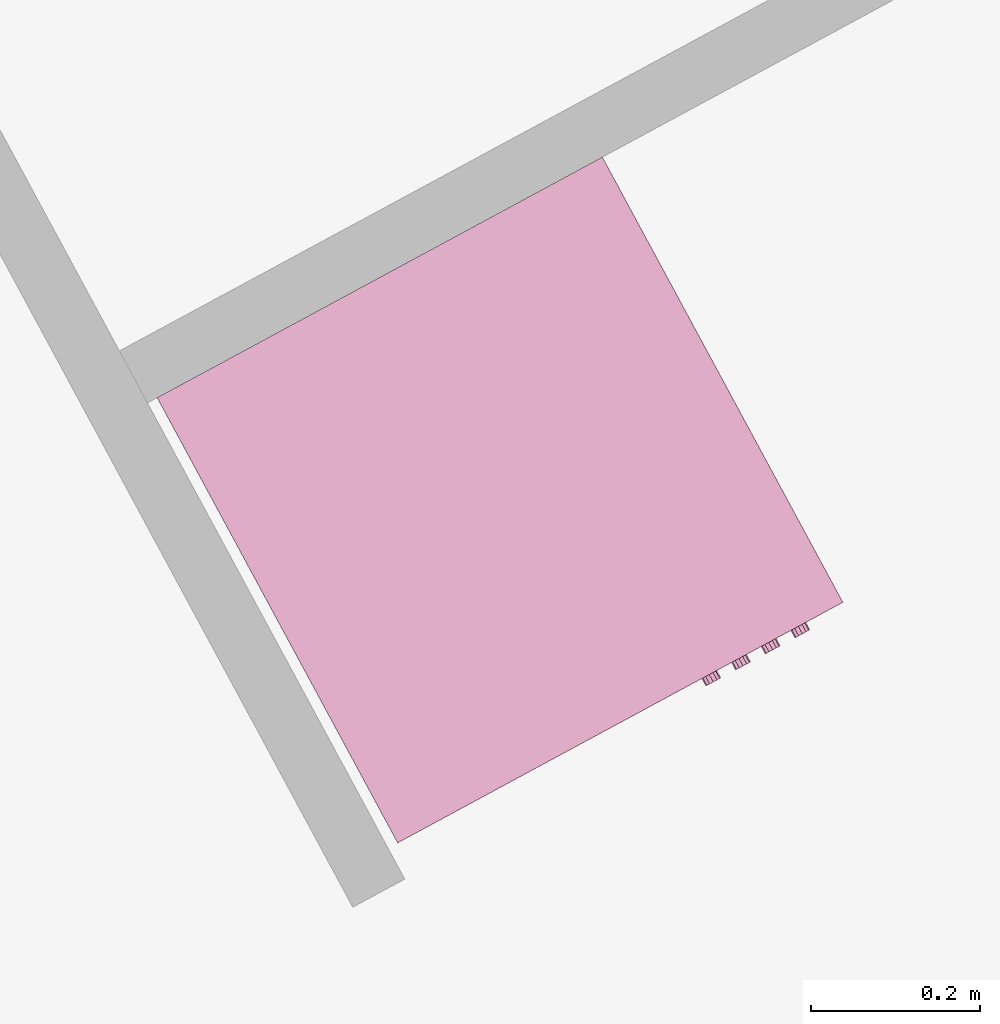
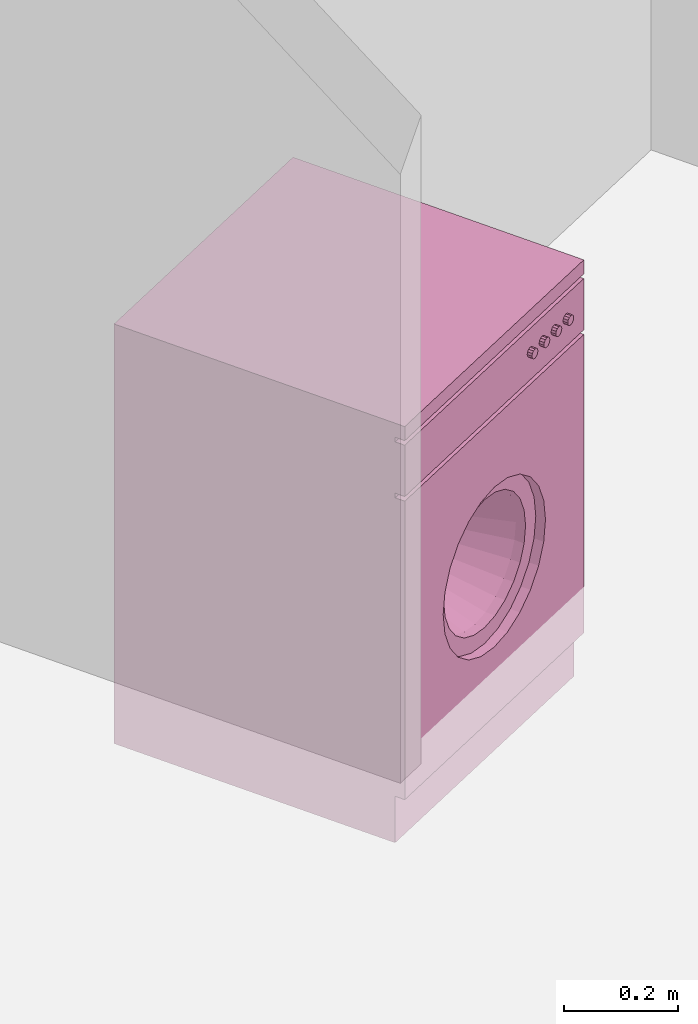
# One storey, part 105 of 121: 1 furnishing.
"""IFC2X3 building model written with IfcOpenShell, lengths in metres."""

from ifc_helpers import new_model, entity, si_unit, converted_unit, derived_unit, money_unit, direction, frame, origin_with_axes, place, context, subcontext, project, spatial, open_shell, faceted_brep, surface_model, source, transform, mapped, type_object, element, save


model = new_model("IFC2X3")

# Units and contexts
model_context = context("Model", 3, precision=1e-05, world=origin_with_axes(), true_north=direction((0.0, 1.0)))
body_context = subcontext(model_context, "Body", "Model", "MODEL_VIEW")
ifc_project = project(units=[si_unit("LENGTHUNIT", "METRE"), si_unit("AREAUNIT", "SQUARE_METRE"), si_unit("VOLUMEUNIT", "CUBIC_METRE"), converted_unit("PLANEANGLEUNIT", "DEGREE", entity("IfcPlaneAngleMeasure", 0.0174532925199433), si_unit("PLANEANGLEUNIT", "RADIAN"), dimensions=[0, 0, 0, 0, 0, 0, 0]), money_unit("CHF"), converted_unit("TIMEUNIT", "Year", entity("IfcTimeMeasure", 31557600.0), si_unit("TIMEUNIT", "SECOND"), dimensions=[0, 0, 1, 0, 0, 0, 0]), si_unit("MASSUNIT", "GRAM", prefix="KILO"), si_unit("THERMODYNAMICTEMPERATUREUNIT", "DEGREE_CELSIUS"), si_unit("LUMINOUSINTENSITYUNIT", "LUMEN"), si_unit("ENERGYUNIT", "JOULE", prefix="MEGA"), derived_unit("THERMALCONDUCTANCEUNIT", [(si_unit("POWERUNIT", "WATT"), 1), (si_unit("LENGTHUNIT", "METRE"), -1), (si_unit("THERMODYNAMICTEMPERATUREUNIT", "KELVIN"), -1)]), derived_unit("SPECIFICHEATCAPACITYUNIT", [(si_unit("ENERGYUNIT", "JOULE"), 1), (si_unit("MASSUNIT", "GRAM", prefix="KILO"), -1), (si_unit("THERMODYNAMICTEMPERATUREUNIT", "KELVIN"), -1)]), derived_unit("MASSDENSITYUNIT", [(si_unit("MASSUNIT", "GRAM", prefix="KILO"), 1), (si_unit("VOLUMEUNIT", "CUBIC_METRE"), -1)])], contexts=[model_context])

# Site, building, storey
site_placement = place(None, origin_with_axes())
site = spatial("IfcSite", under=ifc_project, at=site_placement, Name="Site", CompositionType="ELEMENT")
building_placement = place(site_placement, origin_with_axes())
building = spatial("IfcBuilding", under=site, at=building_placement, Name="Bâtiment", CompositionType="ELEMENT")
storey_placement = place(building_placement, frame((0.0, 0.0, 2.75), z_axis=(0.0, 0.0, 1.0), x_axis=(1.0, 0.0, 0.0)))
storey = spatial("IfcBuildingStorey", under=building, at=storey_placement, Name="Etage 1", CompositionType="ELEMENT", Elevation=2.75)

# Furnishing
furnishing_element_type = type_object("IfcFurnishingElementType", Name="Machine à laver")
shared_shape = source(origin_with_axes(), body_context, "Body", "SurfaceModel", [
    faceted_brep([(0.0, 0.02, 0.1), (0.0, 0.0, 0.1), (-0.6, 0.0, 0.1), (-0.6, 0.02, 0.1), (0.0, 0.02000000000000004, 0.74), (0.0, 0.0, 0.74), (-0.6, 0.0, 0.74), (-0.4714285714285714, 0.0, 0.42), (-0.4655872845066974, 0.0, 0.4643689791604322), (-0.448461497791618, 0.0, 0.5057142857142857), (-0.4212183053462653, 0.0, 0.5412183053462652), (-0.3857142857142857, 0.0, 0.568461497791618), (-0.3443689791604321, 0.0, 0.5855872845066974), (-0.3, 0.0, 0.5914285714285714), (-0.2556310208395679, 0.0, 0.5855872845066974), (-0.2142857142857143, 0.0, 0.5684614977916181), (-0.1787816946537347, 0.0, 0.5412183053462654), (-0.1515385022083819, 0.0, 0.5057142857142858), (-0.1344127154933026, 0.0, 0.4643689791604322), (-0.1285714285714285, 0.0, 0.42), (-0.1344127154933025, 0.0, 0.3756310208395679), (-0.1515385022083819, 0.0, 0.3342857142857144), (-0.1787816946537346, 0.0, 0.2987816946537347), (-0.2142857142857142, 0.0, 0.2715385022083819), (-0.2556310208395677, 0.0, 0.2544127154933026), (-0.2999999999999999, 0.0, 0.2485714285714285), (-0.344368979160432, 0.0, 0.2544127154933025), (-0.3857142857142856, 0.0, 0.2715385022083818), (-0.4212183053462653, 0.0, 0.2987816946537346), (-0.448461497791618, 0.0, 0.3342857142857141), (-0.4655872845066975, 0.0, 0.3756310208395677), (-0.6, 0.02000000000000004, 0.74), (-0.4714285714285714, 0.02000000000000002, 0.42), (-0.4655872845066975, 0.02000000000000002, 0.3756310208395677), (-0.448461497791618, 0.02000000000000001, 0.3342857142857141), (-0.4212183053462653, 0.02000000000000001, 0.2987816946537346), (-0.3857142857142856, 0.02000000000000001, 0.2715385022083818), (-0.344368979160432, 0.02000000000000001, 0.2544127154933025), (-0.2999999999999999, 0.02000000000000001, 0.2485714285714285), (-0.2556310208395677, 0.02000000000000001, 0.2544127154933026), (-0.2142857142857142, 0.02000000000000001, 0.2715385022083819), (-0.1787816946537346, 0.02000000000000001, 0.2987816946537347), (-0.1515385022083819, 0.02000000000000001, 0.3342857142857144), (-0.1344127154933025, 0.02000000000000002, 0.3756310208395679), (-0.1285714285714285, 0.02000000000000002, 0.42), (-0.1344127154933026, 0.02000000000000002, 0.4643689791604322), (-0.1515385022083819, 0.02000000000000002, 0.5057142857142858), (-0.1787816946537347, 0.02000000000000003, 0.5412183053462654), (-0.2142857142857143, 0.02000000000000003, 0.5684614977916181), (-0.2556310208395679, 0.02000000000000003, 0.5855872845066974), (-0.3, 0.02000000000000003, 0.5914285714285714), (-0.3443689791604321, 0.02000000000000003, 0.5855872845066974), (-0.3857142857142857, 0.02000000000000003, 0.568461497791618), (-0.4212183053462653, 0.02000000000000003, 0.5412183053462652), (-0.448461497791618, 0.02000000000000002, 0.5057142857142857), (-0.4655872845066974, 0.02000000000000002, 0.4643689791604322)], [[[0, 1, 2, 3]], [[4, 5, 1, 0]], [[1, 5, 6, 2], [7, 8, 9, 10, 11, 12, 13, 14, 15, 16, 17, 18, 19, 20, 21, 22, 23, 24, 25, 26, 27, 28, 29, 30]], [[3, 2, 6, 31]], [[0, 3, 31, 4], [32, 33, 34, 35, 36, 37, 38, 39, 40, 41, 42, 43, 44, 45, 46, 47, 48, 49, 50, 51, 52, 53, 54, 55]], [[31, 6, 5, 4]], [[55, 8, 7, 32]], [[54, 9, 8, 55]], [[53, 10, 9, 54]], [[52, 11, 10, 53]], [[51, 12, 11, 52]], [[50, 13, 12, 51]], [[49, 14, 13, 50]], [[48, 15, 14, 49]], [[47, 16, 15, 48]], [[46, 17, 16, 47]], [[45, 18, 17, 46]], [[44, 19, 18, 45]], [[43, 20, 19, 44]], [[42, 21, 20, 43]], [[41, 22, 21, 42]], [[40, 23, 22, 41]], [[39, 24, 23, 40]], [[38, 25, 24, 39]], [[37, 26, 25, 38]], [[36, 27, 26, 37]], [[35, 28, 27, 36]], [[34, 29, 28, 35]], [[33, 30, 29, 34]], [[32, 7, 30, 33]]]),
    faceted_brep([(-0.4714285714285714, 0.04000000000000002, 0.42), (-0.4714285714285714, 0.02000000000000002, 0.42), (-0.4655872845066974, 0.02000000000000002, 0.4643689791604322), (-0.4655872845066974, 0.04000000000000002, 0.4643689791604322), (-0.4655872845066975, 0.04000000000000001, 0.3756310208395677), (-0.4655872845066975, 0.02000000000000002, 0.3756310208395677), (-0.448461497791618, 0.02000000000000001, 0.3342857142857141), (-0.4212183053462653, 0.02000000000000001, 0.2987816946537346), (-0.3857142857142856, 0.02000000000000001, 0.2715385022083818), (-0.344368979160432, 0.02000000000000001, 0.2544127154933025), (-0.2999999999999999, 0.02000000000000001, 0.2485714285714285), (-0.2556310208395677, 0.02000000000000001, 0.2544127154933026), (-0.2142857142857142, 0.02000000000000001, 0.2715385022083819), (-0.1787816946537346, 0.02000000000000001, 0.2987816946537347), (-0.1515385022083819, 0.02000000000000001, 0.3342857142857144), (-0.1344127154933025, 0.02000000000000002, 0.3756310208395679), (-0.1285714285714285, 0.02000000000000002, 0.42), (-0.1344127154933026, 0.02000000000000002, 0.4643689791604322), (-0.1515385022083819, 0.02000000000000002, 0.5057142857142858), (-0.1787816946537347, 0.02000000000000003, 0.5412183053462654), (-0.2142857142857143, 0.02000000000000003, 0.5684614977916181), (-0.2556310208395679, 0.02000000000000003, 0.5855872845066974), (-0.3, 0.02000000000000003, 0.5914285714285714), (-0.3443689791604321, 0.02000000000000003, 0.5855872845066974), (-0.3857142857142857, 0.02000000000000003, 0.568461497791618), (-0.4212183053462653, 0.02000000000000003, 0.5412183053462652), (-0.448461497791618, 0.02000000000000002, 0.5057142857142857), (-0.4371428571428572, 0.02000000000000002, 0.42), (-0.432469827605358, 0.02000000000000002, 0.4554951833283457), (-0.4187691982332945, 0.02000000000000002, 0.4885714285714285), (-0.3969746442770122, 0.02000000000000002, 0.5169746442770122), (-0.3685714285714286, 0.02000000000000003, 0.5387691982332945), (-0.3354951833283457, 0.02000000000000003, 0.552469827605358), (-0.3, 0.02000000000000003, 0.5571428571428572), (-0.2645048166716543, 0.02000000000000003, 0.552469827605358), (-0.2314285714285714, 0.02000000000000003, 0.5387691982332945), (-0.2030253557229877, 0.02000000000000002, 0.5169746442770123), (-0.1812308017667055, 0.02000000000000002, 0.4885714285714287), (-0.167530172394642, 0.02000000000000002, 0.4554951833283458), (-0.1628571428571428, 0.02000000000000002, 0.42), (-0.167530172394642, 0.02000000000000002, 0.3845048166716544), (-0.1812308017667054, 0.02000000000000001, 0.3514285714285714), (-0.2030253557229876, 0.02000000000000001, 0.3230253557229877), (-0.2314285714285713, 0.02000000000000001, 0.3012308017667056), (-0.2645048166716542, 0.02000000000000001, 0.287530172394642), (-0.2999999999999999, 0.02000000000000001, 0.2828571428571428), (-0.3354951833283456, 0.02000000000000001, 0.287530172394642), (-0.3685714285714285, 0.02000000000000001, 0.3012308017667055), (-0.3969746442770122, 0.02000000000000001, 0.3230253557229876), (-0.4187691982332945, 0.02000000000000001, 0.3514285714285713), (-0.432469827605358, 0.02000000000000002, 0.3845048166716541), (-0.448461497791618, 0.04000000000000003, 0.5057142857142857), (-0.4212183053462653, 0.04000000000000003, 0.5412183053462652), (-0.3857142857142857, 0.04000000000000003, 0.568461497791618), (-0.3443689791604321, 0.04000000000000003, 0.5855872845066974), (-0.3, 0.04000000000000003, 0.5914285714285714), (-0.2556310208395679, 0.04000000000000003, 0.5855872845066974), (-0.2142857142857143, 0.04000000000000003, 0.5684614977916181), (-0.1787816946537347, 0.04000000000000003, 0.5412183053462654), (-0.1515385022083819, 0.04000000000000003, 0.5057142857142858), (-0.1344127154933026, 0.04000000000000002, 0.4643689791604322), (-0.1285714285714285, 0.04000000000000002, 0.42), (-0.1344127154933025, 0.04000000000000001, 0.3756310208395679), (-0.1515385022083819, 0.04000000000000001, 0.3342857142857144), (-0.1787816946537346, 0.04000000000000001, 0.2987816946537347), (-0.2142857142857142, 0.04000000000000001, 0.2715385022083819), (-0.2556310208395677, 0.04000000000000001, 0.2544127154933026), (-0.2999999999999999, 0.04000000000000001, 0.2485714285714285), (-0.344368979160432, 0.04000000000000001, 0.2544127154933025), (-0.3857142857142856, 0.04000000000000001, 0.2715385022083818), (-0.4212183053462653, 0.04000000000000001, 0.2987816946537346), (-0.448461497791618, 0.04000000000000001, 0.3342857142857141), (-0.4371428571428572, 0.04000000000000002, 0.42), (-0.432469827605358, 0.04000000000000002, 0.3845048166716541), (-0.4187691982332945, 0.04000000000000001, 0.3514285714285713), (-0.3969746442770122, 0.04000000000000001, 0.3230253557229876), (-0.3685714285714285, 0.04000000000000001, 0.3012308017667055), (-0.3354951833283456, 0.04000000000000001, 0.287530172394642), (-0.2999999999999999, 0.04000000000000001, 0.2828571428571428), (-0.2645048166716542, 0.04000000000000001, 0.287530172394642), (-0.2314285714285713, 0.04000000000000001, 0.3012308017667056), (-0.2030253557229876, 0.04000000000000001, 0.3230253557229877), (-0.1812308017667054, 0.04000000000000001, 0.3514285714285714), (-0.167530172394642, 0.04000000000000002, 0.3845048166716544), (-0.1628571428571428, 0.04000000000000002, 0.42), (-0.167530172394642, 0.04000000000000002, 0.4554951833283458), (-0.1812308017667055, 0.04000000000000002, 0.4885714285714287), (-0.2030253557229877, 0.04000000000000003, 0.5169746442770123), (-0.2314285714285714, 0.04000000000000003, 0.5387691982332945), (-0.2645048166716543, 0.04000000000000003, 0.552469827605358), (-0.3, 0.04000000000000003, 0.5571428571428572), (-0.3354951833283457, 0.04000000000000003, 0.552469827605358), (-0.3685714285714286, 0.04000000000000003, 0.5387691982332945), (-0.3969746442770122, 0.04000000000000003, 0.5169746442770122), (-0.4187691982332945, 0.04000000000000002, 0.4885714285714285), (-0.432469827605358, 0.04000000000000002, 0.4554951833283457)], [[[0, 1, 2, 3]], [[4, 5, 1, 0]], [[1, 5, 6, 7, 8, 9, 10, 11, 12, 13, 14, 15, 16, 17, 18, 19, 20, 21, 22, 23, 24, 25, 26, 2], [27, 28, 29, 30, 31, 32, 33, 34, 35, 36, 37, 38, 39, 40, 41, 42, 43, 44, 45, 46, 47, 48, 49, 50]], [[3, 2, 26, 51]], [[0, 3, 51, 52, 53, 54, 55, 56, 57, 58, 59, 60, 61, 62, 63, 64, 65, 66, 67, 68, 69, 70, 71, 4], [72, 73, 74, 75, 76, 77, 78, 79, 80, 81, 82, 83, 84, 85, 86, 87, 88, 89, 90, 91, 92, 93, 94, 95]], [[71, 6, 5, 4]], [[70, 7, 6, 71]], [[69, 8, 7, 70]], [[68, 9, 8, 69]], [[67, 10, 9, 68]], [[66, 11, 10, 67]], [[65, 12, 11, 66]], [[64, 13, 12, 65]], [[63, 14, 13, 64]], [[62, 15, 14, 63]], [[61, 16, 15, 62]], [[60, 17, 16, 61]], [[59, 18, 17, 60]], [[58, 19, 18, 59]], [[57, 20, 19, 58]], [[56, 21, 20, 57]], [[55, 22, 21, 56]], [[54, 23, 22, 55]], [[53, 24, 23, 54]], [[52, 25, 24, 53]], [[51, 26, 25, 52]], [[95, 28, 27, 72]], [[94, 29, 28, 95]], [[93, 30, 29, 94]], [[92, 31, 30, 93]], [[91, 32, 31, 92]], [[90, 33, 32, 91]], [[89, 34, 33, 90]], [[88, 35, 34, 89]], [[87, 36, 35, 88]], [[86, 37, 36, 87]], [[85, 38, 37, 86]], [[84, 39, 38, 85]], [[83, 40, 39, 84]], [[82, 41, 40, 83]], [[81, 42, 41, 82]], [[80, 43, 42, 81]], [[79, 44, 43, 80]], [[78, 45, 44, 79]], [[77, 46, 45, 78]], [[76, 47, 46, 77]], [[75, 48, 47, 76]], [[74, 49, 48, 75]], [[73, 50, 49, 74]], [[72, 27, 50, 73]]]),
    surface_model("IfcShellBasedSurfaceModel", [(-0.2645048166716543, 0.03999999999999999, 0.552469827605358), (-0.2733786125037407, 0.14, 0.5193523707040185), (-0.3, 0.14, 0.5228571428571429), (-0.3, 0.03999999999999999, 0.5571428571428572), (-0.2314285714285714, 0.03999999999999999, 0.5387691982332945), (-0.2485714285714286, 0.14, 0.5090768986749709), (-0.2272690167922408, 0.14, 0.4927309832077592), (-0.2109231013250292, 0.14, 0.4714285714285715), (-0.2006476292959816, 0.14, 0.4466213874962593), (-0.1971428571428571, 0.14, 0.4200000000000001), (-0.2006476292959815, 0.14, 0.3933786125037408), (-0.2109231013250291, 0.14, 0.3685714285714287), (-0.2272690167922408, 0.14, 0.3472690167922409), (-0.2485714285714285, 0.14, 0.3309231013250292), (-0.2733786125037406, 0.14, 0.3206476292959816), (-0.2999999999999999, 0.14, 0.3171428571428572), (-0.3266213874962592, 0.14, 0.3206476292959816), (-0.3514285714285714, 0.14, 0.3309231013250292), (-0.3727309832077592, 0.14, 0.3472690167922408), (-0.3890768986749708, 0.14, 0.3685714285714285), (-0.3993523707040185, 0.14, 0.3933786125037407), (-0.4028571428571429, 0.14, 0.42), (-0.3993523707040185, 0.14, 0.4466213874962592), (-0.3890768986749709, 0.14, 0.4714285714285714), (-0.3727309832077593, 0.14, 0.4927309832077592), (-0.3514285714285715, 0.14, 0.5090768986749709), (-0.3266213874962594, 0.14, 0.5193523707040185), (-0.3354951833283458, 0.03999999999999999, 0.552469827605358), (-0.2030253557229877, 0.03999999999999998, 0.5169746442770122), (-0.1812308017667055, 0.03999999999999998, 0.4885714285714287), (-0.167530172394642, 0.03999999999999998, 0.4554951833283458), (-0.1628571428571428, 0.03999999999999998, 0.4200000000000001), (-0.167530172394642, 0.03999999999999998, 0.3845048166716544), (-0.1812308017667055, 0.03999999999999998, 0.3514285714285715), (-0.2030253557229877, 0.03999999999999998, 0.3230253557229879), (-0.2314285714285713, 0.03999999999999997, 0.3012308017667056), (-0.2645048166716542, 0.03999999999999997, 0.2875301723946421), (-0.2999999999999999, 0.03999999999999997, 0.2828571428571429), (-0.3354951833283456, 0.03999999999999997, 0.2875301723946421), (-0.3685714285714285, 0.03999999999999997, 0.3012308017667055), (-0.3969746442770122, 0.03999999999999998, 0.3230253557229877), (-0.4187691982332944, 0.03999999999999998, 0.3514285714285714), (-0.432469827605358, 0.03999999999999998, 0.3845048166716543), (-0.4371428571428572, 0.03999999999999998, 0.4199999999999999), (-0.432469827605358, 0.03999999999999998, 0.4554951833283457), (-0.4187691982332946, 0.03999999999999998, 0.4885714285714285), (-0.3969746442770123, 0.03999999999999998, 0.5169746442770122), (-0.3685714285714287, 0.03999999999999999, 0.5387691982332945)], [open_shell([[[0, 1, 2, 3]], [[4, 5, 1, 0]], [[2, 1, 5, 6, 7, 8, 9, 10, 11, 12, 13, 14, 15, 16, 17, 18, 19, 20, 21, 22, 23, 24, 25, 26]], [[3, 2, 26, 27]], [[28, 6, 5, 4]], [[29, 7, 6, 28]], [[30, 8, 7, 29]], [[31, 9, 8, 30]], [[32, 10, 9, 31]], [[33, 11, 10, 32]], [[34, 12, 11, 33]], [[35, 13, 12, 34]], [[36, 14, 13, 35]], [[37, 15, 14, 36]], [[38, 16, 15, 37]], [[39, 17, 16, 38]], [[40, 18, 17, 39]], [[41, 19, 18, 40]], [[42, 20, 19, 41]], [[43, 21, 20, 42]], [[44, 22, 21, 43]], [[45, 23, 22, 44]], [[46, 24, 23, 45]], [[47, 25, 24, 46]], [[27, 26, 25, 47]]])]),
    surface_model("IfcShellBasedSurfaceModel", [(0.0, 0.02, 0.1), (0.0, 0.6, 0.09999999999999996), (0.0, 0.6, 0.87), (0.0, 0.02000000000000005, 0.87)], [open_shell([[[0, 1, 2, 3]]])]),
    surface_model("IfcShellBasedSurfaceModel", [(-0.6, 0.01999999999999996, 0.1), (-0.6, 0.5999999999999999, 0.09999999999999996), (-0.6, 0.5999999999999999, 0.87), (-0.6, 0.02000000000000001, 0.87)], [open_shell([[[0, 1, 2, 3]]])]),
    surface_model("IfcShellBasedSurfaceModel", [(0.0, 0.6, 0.1), (-0.6, 0.6, 0.1), (-0.6, 0.6, 0.87), (0.0, 0.6, 0.87)], [open_shell([[[0, 1, 2, 3]]])]),
    faceted_brep([(0.0, 0.02, 0.0), (0.0, 0.02, 0.1), (-0.6, 0.02, 0.1), (-0.6, 0.02, 0.0), (0.0, 0.6, 0.0), (0.0, 0.6, 0.1), (-0.6, 0.6, 0.1), (-0.6, 0.6, 0.0)], [[[0, 1, 2, 3]], [[4, 5, 1, 0]], [[1, 5, 6, 2]], [[3, 2, 6, 7]], [[0, 3, 7, 4]], [[7, 6, 5, 4]]]),
    faceted_brep([(0.0, 0.02, 0.75), (0.0, 0.0, 0.75), (-0.6, 0.0, 0.75), (-0.6, 0.02, 0.75), (0.0, 0.02000000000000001, 0.86), (0.0, 0.0, 0.86), (-0.6, 0.0, 0.86), (-0.6, 0.02000000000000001, 0.86)], [[[0, 1, 2, 3]], [[4, 5, 1, 0]], [[1, 5, 6, 2]], [[3, 2, 6, 7]], [[0, 3, 7, 4]], [[7, 6, 5, 4]]]),
    surface_model("IfcShellBasedSurfaceModel", [(0.0, 0.02, 0.74), (-0.6, 0.02, 0.74), (-0.6, 0.02000000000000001, 0.87), (0.0, 0.02000000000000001, 0.87)], [open_shell([[[0, 1, 2, 3]]])]),
    faceted_brep([(0.0, 0.0, 0.87), (0.0, 0.0, 0.9), (-0.6, 0.0, 0.9), (-0.6, 0.0, 0.87), (0.0, 0.6, 0.87), (0.0, 0.6, 0.9), (-0.6, 0.6, 0.9), (-0.6, 0.6, 0.87)], [[[0, 1, 2, 3]], [[4, 5, 1, 0]], [[1, 5, 6, 2]], [[3, 2, 6, 7]], [[0, 3, 7, 4]], [[7, 6, 5, 4]]]),
    faceted_brep([(-0.06866025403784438, 0.0, 0.8049999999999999), (-0.06999999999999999, 0.0, 0.8099999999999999), (-0.06866025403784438, 0.0, 0.815), (-0.065, 0.0, 0.8186602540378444), (-0.06, 0.0, 0.82), (-0.055, 0.0, 0.8186602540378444), (-0.05133974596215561, 0.0, 0.815), (-0.05, 0.0, 0.8099999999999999), (-0.05133974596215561, 0.0, 0.8049999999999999), (-0.05499999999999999, 0.0, 0.8013397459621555), (-0.05999999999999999, 0.0, 0.7999999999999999), (-0.06499999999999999, 0.0, 0.8013397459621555), (-0.06866025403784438, -0.01, 0.8049999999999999), (-0.06999999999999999, -0.01, 0.8099999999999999), (-0.06866025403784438, -0.01, 0.815), (-0.065, -0.01, 0.8186602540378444), (-0.06, -0.01, 0.82), (-0.055, -0.01, 0.8186602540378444), (-0.05133974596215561, -0.01, 0.815), (-0.05, -0.01, 0.8099999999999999), (-0.05133974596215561, -0.01, 0.8049999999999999), (-0.05499999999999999, -0.01, 0.8013397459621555), (-0.05999999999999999, -0.01, 0.7999999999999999), (-0.06499999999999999, -0.01, 0.8013397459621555)], [[[0, 1, 2, 3, 4, 5, 6, 7, 8, 9, 10, 11]], [[0, 12, 13, 1]], [[1, 13, 14, 2]], [[2, 14, 15, 3]], [[3, 15, 16, 4]], [[4, 16, 17, 5]], [[5, 17, 18, 6]], [[6, 18, 19, 7]], [[7, 19, 20, 8]], [[8, 20, 21, 9]], [[9, 21, 22, 10]], [[10, 22, 23, 11]], [[11, 23, 12, 0]], [[12, 23, 22, 21, 20, 19, 18, 17, 16, 15, 14, 13]]]),
    faceted_brep([(-0.1086602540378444, 0.0, 0.8049999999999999), (-0.11, 0.0, 0.8099999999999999), (-0.1086602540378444, 0.0, 0.815), (-0.105, 0.0, 0.8186602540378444), (-0.1, 0.0, 0.82), (-0.095, 0.0, 0.8186602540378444), (-0.09133974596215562, 0.0, 0.815), (-0.09000000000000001, 0.0, 0.8099999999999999), (-0.09133974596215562, 0.0, 0.8049999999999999), (-0.095, 0.0, 0.8013397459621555), (-0.09999999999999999, 0.0, 0.7999999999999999), (-0.105, 0.0, 0.8013397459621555), (-0.1086602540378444, -0.01, 0.8049999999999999), (-0.11, -0.01, 0.8099999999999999), (-0.1086602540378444, -0.01, 0.815), (-0.105, -0.01, 0.8186602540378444), (-0.1, -0.01, 0.82), (-0.095, -0.01, 0.8186602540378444), (-0.09133974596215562, -0.01, 0.815), (-0.09000000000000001, -0.01, 0.8099999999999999), (-0.09133974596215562, -0.01, 0.8049999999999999), (-0.095, -0.01, 0.8013397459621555), (-0.09999999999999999, -0.01, 0.7999999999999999), (-0.105, -0.01, 0.8013397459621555)], [[[0, 1, 2, 3, 4, 5, 6, 7, 8, 9, 10, 11]], [[0, 12, 13, 1]], [[1, 13, 14, 2]], [[2, 14, 15, 3]], [[3, 15, 16, 4]], [[4, 16, 17, 5]], [[5, 17, 18, 6]], [[6, 18, 19, 7]], [[7, 19, 20, 8]], [[8, 20, 21, 9]], [[9, 21, 22, 10]], [[10, 22, 23, 11]], [[11, 23, 12, 0]], [[12, 23, 22, 21, 20, 19, 18, 17, 16, 15, 14, 13]]]),
    faceted_brep([(-0.1486602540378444, 0.0, 0.8049999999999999), (-0.15, 0.0, 0.8099999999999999), (-0.1486602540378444, 0.0, 0.815), (-0.145, 0.0, 0.8186602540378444), (-0.14, 0.0, 0.82), (-0.135, 0.0, 0.8186602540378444), (-0.1313397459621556, 0.0, 0.815), (-0.13, 0.0, 0.8099999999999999), (-0.1313397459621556, 0.0, 0.8049999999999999), (-0.135, 0.0, 0.8013397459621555), (-0.14, 0.0, 0.7999999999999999), (-0.145, 0.0, 0.8013397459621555), (-0.1486602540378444, -0.01, 0.8049999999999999), (-0.15, -0.01, 0.8099999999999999), (-0.1486602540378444, -0.01, 0.815), (-0.145, -0.01, 0.8186602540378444), (-0.14, -0.01, 0.82), (-0.135, -0.01, 0.8186602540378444), (-0.1313397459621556, -0.01, 0.815), (-0.13, -0.01, 0.8099999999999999), (-0.1313397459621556, -0.01, 0.8049999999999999), (-0.135, -0.01, 0.8013397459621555), (-0.14, -0.01, 0.7999999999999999), (-0.145, -0.01, 0.8013397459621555)], [[[0, 1, 2, 3, 4, 5, 6, 7, 8, 9, 10, 11]], [[0, 12, 13, 1]], [[1, 13, 14, 2]], [[2, 14, 15, 3]], [[3, 15, 16, 4]], [[4, 16, 17, 5]], [[5, 17, 18, 6]], [[6, 18, 19, 7]], [[7, 19, 20, 8]], [[8, 20, 21, 9]], [[9, 21, 22, 10]], [[10, 22, 23, 11]], [[11, 23, 12, 0]], [[12, 23, 22, 21, 20, 19, 18, 17, 16, 15, 14, 13]]]),
    faceted_brep([(-0.1886602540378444, 0.0, 0.8049999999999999), (-0.19, 0.0, 0.8099999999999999), (-0.1886602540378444, 0.0, 0.815), (-0.185, 0.0, 0.8186602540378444), (-0.18, 0.0, 0.82), (-0.175, 0.0, 0.8186602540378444), (-0.1713397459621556, 0.0, 0.815), (-0.17, 0.0, 0.8099999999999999), (-0.1713397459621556, 0.0, 0.8049999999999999), (-0.175, 0.0, 0.8013397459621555), (-0.18, 0.0, 0.7999999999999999), (-0.185, 0.0, 0.8013397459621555), (-0.1886602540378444, -0.01, 0.8049999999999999), (-0.19, -0.01, 0.8099999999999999), (-0.1886602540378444, -0.01, 0.815), (-0.185, -0.01, 0.8186602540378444), (-0.18, -0.01, 0.82), (-0.175, -0.01, 0.8186602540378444), (-0.1713397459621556, -0.01, 0.815), (-0.17, -0.01, 0.8099999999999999), (-0.1713397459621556, -0.01, 0.8049999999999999), (-0.175, -0.01, 0.8013397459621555), (-0.18, -0.01, 0.7999999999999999), (-0.185, -0.01, 0.8013397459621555)], [[[0, 1, 2, 3, 4, 5, 6, 7, 8, 9, 10, 11]], [[0, 12, 13, 1]], [[1, 13, 14, 2]], [[2, 14, 15, 3]], [[3, 15, 16, 4]], [[4, 16, 17, 5]], [[5, 17, 18, 6]], [[6, 18, 19, 7]], [[7, 19, 20, 8]], [[8, 20, 21, 9]], [[9, 21, 22, 10]], [[10, 22, 23, 11]], [[11, 23, 12, 0]], [[12, 23, 22, 21, 20, 19, 18, 17, 16, 15, 14, 13]]]),
])
furnishing_placement = place(storey_placement, frame((9564.923673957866, -1034.066570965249, 57.49999999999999), z_axis=(0.0, 0.0, 1.0), x_axis=(0.8798137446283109, 0.4753186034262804, 0.0)))
element("IfcFurnishingElement", 1, at=furnishing_placement, inside=storey, type_object=furnishing_element_type, Name="Obj.-019", context=body_context, shape_type="MappedRepresentation", body=[
    mapped(shared_shape, transform((0.0, 0.0, 0.0))),
])

save(model, "model.ifc")
